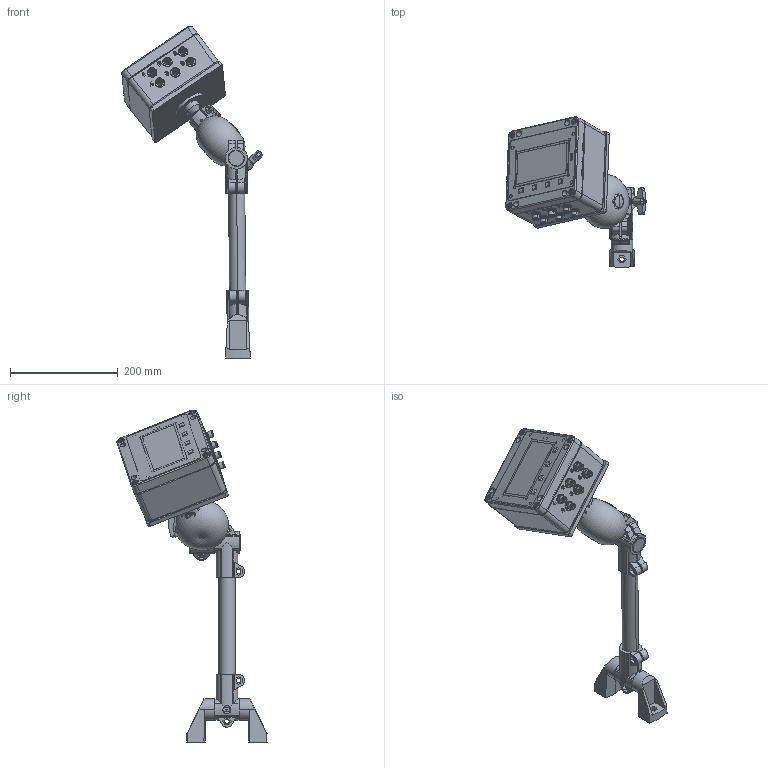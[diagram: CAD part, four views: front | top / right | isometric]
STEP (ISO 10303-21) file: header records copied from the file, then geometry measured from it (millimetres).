
FILE_DESCRIPTION(/* description */ ('Alibre Inc.'),/* implementation_level */ '2;1');
FILE_NAME(/* name */ 'export-879CA2C2-AD3D-408F-BD1A-0F8C5EC723E3',/* time_stamp */ '2020-05-15T11:47:01+02:00',/* author */ (''),/* organization */ (''),/* preprocessor_version */ 'ST-DEVELOPER v17',/* originating_system */ 'Alibre',/* authorisation */ '');
FILE_SCHEMA (('CONFIG_CONTROL_DESIGN'));
Length unit declared in the file: millimetre
Bounding box: 259.88 x 278.14 x 614.88 mm (x, y, z)
Volume: 2436077 mm3; surface area: 701616.6 mm2
Topology: 42 solids, 46 shells, 4291 faces, 10270 edges, 6038 vertices
Faces by surface type: cylinder 1292, plane 1234, bspline 1025, cone 339, sphere 222, torus 179
Full cylindrical faces by diameter (mm): 1 x60, 1.5 x20, 2.459 x8, 3 x12, 3.4 x4, 3.5 x4, 4.134 x4, 4.917 x4, 6.4 x4, 6.94 x4, 8.3 x6, 9.45 x6, 10.4 x6, 10.5 x6, 11 x4, 12 x6, 13.3 x6, 14.376 x6
Entity records: 134773 total; most frequent: CARTESIAN_POINT 63435, ORIENTED_EDGE 15266, DIRECTION 11716, EDGE_CURVE 7633, AXIS2_PLACEMENT_3D 4795, VERTEX_POINT 4520, EDGE_LOOP 3795, FACE_BOUND 3795
